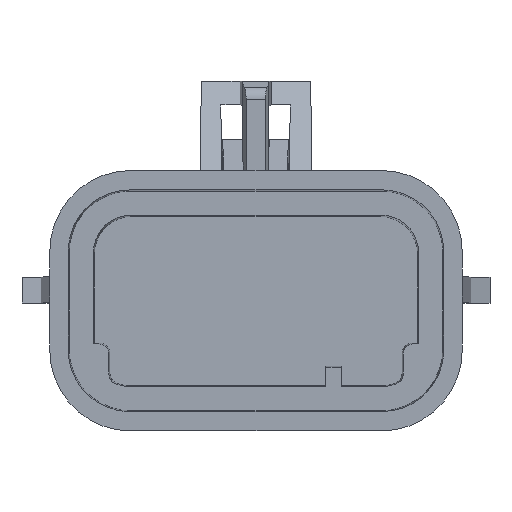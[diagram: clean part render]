
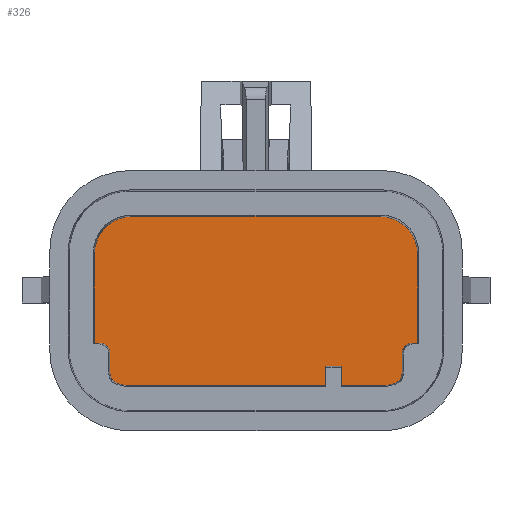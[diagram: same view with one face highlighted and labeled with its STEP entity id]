
A CAD part, top view. The second image highlights one B-rep face of the part: STEP entity #326.
In plain terms, the highlighted planar face has unit normal (0, 0, 1).
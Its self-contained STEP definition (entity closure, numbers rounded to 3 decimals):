
#121=B_SPLINE_CURVE_WITH_KNOTS('',3,(#3745,#3746,#3747,#3748,#3749,#3750,
#3751,#3752,#3753,#3754,#3755,#3756,#3757),.UNSPECIFIED.,.F.,.F.,(4,3,3,
3,4),(0.,0.279,0.557,0.836,1.),
 .UNSPECIFIED.);
#130=B_SPLINE_CURVE_WITH_KNOTS('',3,(#4080,#4081,#4082,#4083,#4084,#4085,
#4086,#4087,#4088,#4089,#4090,#4091,#4092),.UNSPECIFIED.,.F.,.F.,(4,3,3,
3,4),(0.,0.279,0.557,0.836,1.),
 .UNSPECIFIED.);
#152=ELLIPSE('',#2756,0.8,0.8);
#154=ELLIPSE('',#2764,2.9,2.9);
#161=ELLIPSE('',#2828,0.8,0.8);
#162=ELLIPSE('',#2829,2.9,2.9);
#210=PLANE('',#2830);
#326=ADVANCED_FACE('',(#476),#210,.T.);
#476=FACE_OUTER_BOUND('',#606,.T.);
#606=EDGE_LOOP('',(#1002,#1003,#1004,#1005,#1006,#1007,#1008,#1009,#1010,
#1011,#1012,#1013,#1014,#1015,#1016,#1017,#1018,#1019,#1020,#1021));
#691=CIRCLE('',#2760,3.077);
#709=CIRCLE('',#2827,3.077);
#1002=ORIENTED_EDGE('',*,*,#1940,.T.);
#1003=ORIENTED_EDGE('',*,*,#1808,.F.);
#1004=ORIENTED_EDGE('',*,*,#1787,.T.);
#1005=ORIENTED_EDGE('',*,*,#1789,.T.);
#1006=ORIENTED_EDGE('',*,*,#1794,.F.);
#1007=ORIENTED_EDGE('',*,*,#1797,.F.);
#1008=ORIENTED_EDGE('',*,*,#1800,.F.);
#1009=ORIENTED_EDGE('',*,*,#1803,.F.);
#1010=ORIENTED_EDGE('',*,*,#1806,.F.);
#1011=ORIENTED_EDGE('',*,*,#1812,.F.);
#1012=ORIENTED_EDGE('',*,*,#1941,.F.);
#1013=ORIENTED_EDGE('',*,*,#1942,.T.);
#1014=ORIENTED_EDGE('',*,*,#1943,.T.);
#1015=ORIENTED_EDGE('',*,*,#1944,.T.);
#1016=ORIENTED_EDGE('',*,*,#1945,.F.);
#1017=ORIENTED_EDGE('',*,*,#1946,.T.);
#1018=ORIENTED_EDGE('',*,*,#1947,.F.);
#1019=ORIENTED_EDGE('',*,*,#1948,.F.);
#1020=ORIENTED_EDGE('',*,*,#1949,.T.);
#1021=ORIENTED_EDGE('',*,*,#1950,.F.);
#1528=VERTEX_POINT('',#3691);
#1529=VERTEX_POINT('',#3693);
#1530=VERTEX_POINT('',#3697);
#1533=VERTEX_POINT('',#3705);
#1535=VERTEX_POINT('',#3717);
#1537=VERTEX_POINT('',#3744);
#1539=VERTEX_POINT('',#3773);
#1541=VERTEX_POINT('',#3779);
#1543=VERTEX_POINT('',#3785);
#1545=VERTEX_POINT('',#3791);
#1634=VERTEX_POINT('',#4071);
#1635=VERTEX_POINT('',#4073);
#1636=VERTEX_POINT('',#4075);
#1637=VERTEX_POINT('',#4077);
#1638=VERTEX_POINT('',#4079);
#1639=VERTEX_POINT('',#4093);
#1640=VERTEX_POINT('',#4095);
#1641=VERTEX_POINT('',#4097);
#1642=VERTEX_POINT('',#4099);
#1643=VERTEX_POINT('',#4101);
#1787=EDGE_CURVE('',#1529,#1528,#2169,.T.);
#1789=EDGE_CURVE('',#1528,#1530,#2171,.T.);
#1794=EDGE_CURVE('',#1533,#1530,#152,.T.);
#1797=EDGE_CURVE('',#1535,#1533,#2176,.T.);
#1800=EDGE_CURVE('',#1537,#1535,#121,.T.);
#1803=EDGE_CURVE('',#1539,#1537,#691,.T.);
#1806=EDGE_CURVE('',#1541,#1539,#2180,.T.);
#1808=EDGE_CURVE('',#1529,#1543,#154,.T.);
#1812=EDGE_CURVE('',#1545,#1541,#2184,.T.);
#1940=EDGE_CURVE('',#1634,#1543,#2281,.T.);
#1941=EDGE_CURVE('',#1635,#1545,#2282,.T.);
#1942=EDGE_CURVE('',#1635,#1636,#2283,.T.);
#1943=EDGE_CURVE('',#1636,#1637,#2284,.T.);
#1944=EDGE_CURVE('',#1637,#1638,#709,.T.);
#1945=EDGE_CURVE('',#1639,#1638,#130,.T.);
#1946=EDGE_CURVE('',#1639,#1640,#2285,.T.);
#1947=EDGE_CURVE('',#1641,#1640,#161,.T.);
#1948=EDGE_CURVE('',#1642,#1641,#2286,.T.);
#1949=EDGE_CURVE('',#1642,#1643,#2287,.T.);
#1950=EDGE_CURVE('',#1634,#1643,#162,.T.);
#2169=LINE('',#3692,#2467);
#2171=LINE('',#3696,#2469);
#2176=LINE('',#3718,#2474);
#2180=LINE('',#3780,#2478);
#2184=LINE('',#3792,#2482);
#2281=LINE('',#4070,#2579);
#2282=LINE('',#4072,#2580);
#2283=LINE('',#4074,#2581);
#2284=LINE('',#4076,#2582);
#2285=LINE('',#4094,#2583);
#2286=LINE('',#4098,#2584);
#2287=LINE('',#4100,#2585);
#2467=VECTOR('',#2988,1.);
#2469=VECTOR('',#2992,1.);
#2474=VECTOR('',#3005,1.);
#2478=VECTOR('',#3017,1.);
#2482=VECTOR('',#3029,1.);
#2579=VECTOR('',#3248,1.);
#2580=VECTOR('',#3249,1.);
#2581=VECTOR('',#3250,1.);
#2582=VECTOR('',#3251,1.);
#2583=VECTOR('',#3254,1.);
#2584=VECTOR('',#3257,1.);
#2585=VECTOR('',#3258,1.);
#2756=AXIS2_PLACEMENT_3D('',#3706,#3000,#3001);
#2760=AXIS2_PLACEMENT_3D('',#3774,#3011,#3012);
#2764=AXIS2_PLACEMENT_3D('',#3784,#3022,#3023);
#2827=AXIS2_PLACEMENT_3D('',#4078,#3252,#3253);
#2828=AXIS2_PLACEMENT_3D('',#4096,#3255,#3256);
#2829=AXIS2_PLACEMENT_3D('',#4102,#3259,#3260);
#2830=AXIS2_PLACEMENT_3D('',#4103,#3261,#3262);
#2988=DIRECTION('',(0.,-1.,0.));
#2992=DIRECTION('',(1.,0.,0.));
#3000=DIRECTION('',(0.,0.,1.));
#3001=DIRECTION('',(0.707,0.707,0.));
#3005=DIRECTION('',(0.,1.,0.));
#3011=DIRECTION('',(0.,0.,-1.));
#3012=DIRECTION('',(0.,1.,0.));
#3017=DIRECTION('',(-1.,0.,0.));
#3022=DIRECTION('',(0.,0.,-1.));
#3023=DIRECTION('',(0.707,-0.707,0.));
#3029=DIRECTION('',(0.,-1.,0.));
#3248=DIRECTION('',(-1.,0.,0.));
#3249=DIRECTION('',(-1.,0.,0.));
#3250=DIRECTION('',(0.,-1.,0.));
#3251=DIRECTION('',(1.,0.,0.));
#3252=DIRECTION('',(0.,0.,1.));
#3253=DIRECTION('',(0.,1.,0.));
#3254=DIRECTION('',(0.,1.,0.));
#3255=DIRECTION('',(0.,0.,1.));
#3256=DIRECTION('',(-0.707,0.707,0.));
#3257=DIRECTION('',(-1.,0.,0.));
#3258=DIRECTION('',(0.,1.,0.));
#3259=DIRECTION('',(0.,0.,-1.));
#3260=DIRECTION('',(-0.707,-0.707,0.));
#3261=DIRECTION('',(0.,0.,1.));
#3262=DIRECTION('',(0.,1.,0.));
#3691=CARTESIAN_POINT('',(-12.483,-3.25,-8.654));
#3692=CARTESIAN_POINT('',(-12.483,6.55,-8.654));
#3693=CARTESIAN_POINT('',(-12.483,3.65,-8.654));
#3696=CARTESIAN_POINT('',(9.717,-3.25,-8.654));
#3697=CARTESIAN_POINT('',(-12.083,-3.25,-8.654));
#3705=CARTESIAN_POINT('',(-11.283,-4.05,-8.654));
#3706=CARTESIAN_POINT('',(-12.083,-4.05,-8.654));
#3717=CARTESIAN_POINT('',(-11.283,-5.605,-8.654));
#3718=CARTESIAN_POINT('',(-11.283,-3.473,-8.654));
#3744=CARTESIAN_POINT('',(-10.764,-6.354,-8.654));
#3745=CARTESIAN_POINT('',(-10.764,-6.354,-8.654));
#3746=CARTESIAN_POINT('',(-10.847,-6.322,-8.654));
#3747=CARTESIAN_POINT('',(-10.927,-6.276,-8.654));
#3748=CARTESIAN_POINT('',(-10.996,-6.219,-8.654));
#3749=CARTESIAN_POINT('',(-11.064,-6.161,-8.654));
#3750=CARTESIAN_POINT('',(-11.124,-6.091,-8.654));
#3751=CARTESIAN_POINT('',(-11.17,-6.014,-8.654));
#3752=CARTESIAN_POINT('',(-11.216,-5.937,-8.654));
#3753=CARTESIAN_POINT('',(-11.249,-5.851,-8.654));
#3754=CARTESIAN_POINT('',(-11.267,-5.764,-8.654));
#3755=CARTESIAN_POINT('',(-11.277,-5.711,-8.654));
#3756=CARTESIAN_POINT('',(-11.283,-5.658,-8.654));
#3757=CARTESIAN_POINT('',(-11.283,-5.605,-8.654));
#3773=CARTESIAN_POINT('',(-9.683,-6.55,-8.654));
#3774=CARTESIAN_POINT('',(-9.683,-3.473,-8.654));
#3779=CARTESIAN_POINT('',(5.417,-6.55,-8.654));
#3780=CARTESIAN_POINT('',(5.167,-6.55,-8.654));
#3784=CARTESIAN_POINT('',(-9.582,3.65,-8.654));
#3785=CARTESIAN_POINT('',(-9.583,6.55,-8.654));
#3791=CARTESIAN_POINT('',(5.417,-5.05,-8.654));
#3792=CARTESIAN_POINT('',(5.417,-5.05,-8.654));
#4070=CARTESIAN_POINT('',(12.517,6.55,-8.654));
#4071=CARTESIAN_POINT('',(9.618,6.55,-8.654));
#4072=CARTESIAN_POINT('',(0.017,-5.05,-8.654));
#4073=CARTESIAN_POINT('',(6.617,-5.05,-8.654));
#4074=CARTESIAN_POINT('',(6.617,-3.473,-8.654));
#4075=CARTESIAN_POINT('',(6.617,-6.55,-8.654));
#4076=CARTESIAN_POINT('',(9.717,-6.55,-8.654));
#4077=CARTESIAN_POINT('',(9.717,-6.55,-8.654));
#4078=CARTESIAN_POINT('',(9.717,-3.473,-8.654));
#4079=CARTESIAN_POINT('',(10.799,-6.354,-8.654));
#4080=CARTESIAN_POINT('',(11.317,-5.605,-8.654));
#4081=CARTESIAN_POINT('',(11.317,-5.694,-8.654));
#4082=CARTESIAN_POINT('',(11.302,-5.785,-8.654));
#4083=CARTESIAN_POINT('',(11.272,-5.87,-8.654));
#4084=CARTESIAN_POINT('',(11.243,-5.954,-8.654));
#4085=CARTESIAN_POINT('',(11.198,-6.035,-8.654));
#4086=CARTESIAN_POINT('',(11.142,-6.105,-8.654));
#4087=CARTESIAN_POINT('',(11.086,-6.175,-8.654));
#4088=CARTESIAN_POINT('',(11.017,-6.236,-8.654));
#4089=CARTESIAN_POINT('',(10.942,-6.283,-8.654));
#4090=CARTESIAN_POINT('',(10.896,-6.311,-8.654));
#4091=CARTESIAN_POINT('',(10.848,-6.335,-8.654));
#4092=CARTESIAN_POINT('',(10.799,-6.354,-8.654));
#4093=CARTESIAN_POINT('',(11.317,-5.605,-8.654));
#4094=CARTESIAN_POINT('',(11.317,-6.101,-8.654));
#4095=CARTESIAN_POINT('',(11.317,-4.05,-8.654));
#4096=CARTESIAN_POINT('',(12.117,-4.05,-8.654));
#4097=CARTESIAN_POINT('',(12.117,-3.25,-8.654));
#4098=CARTESIAN_POINT('',(-12.283,-3.25,-8.654));
#4099=CARTESIAN_POINT('',(12.517,-3.25,-8.654));
#4100=CARTESIAN_POINT('',(12.517,-3.25,-8.654));
#4101=CARTESIAN_POINT('',(12.517,3.65,-8.654));
#4102=CARTESIAN_POINT('',(9.617,3.65,-8.654));
#4103=CARTESIAN_POINT('',(9.717,-3.473,-8.654));
